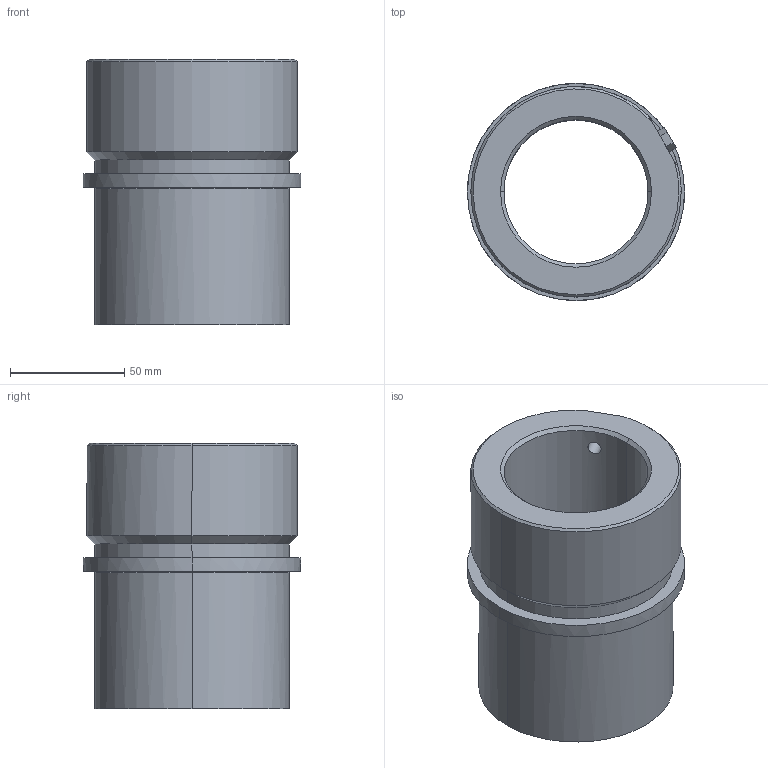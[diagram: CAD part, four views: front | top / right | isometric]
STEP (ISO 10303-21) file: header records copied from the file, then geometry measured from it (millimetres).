
FILE_DESCRIPTION(('CATIA V5 STEP Exchange'),'2;1');
FILE_NAME('C:\Users\Utente\Desktop\IO LAVORO\3D X SITO CF\X SITO\741\741-63.stp','2021-01-20T17:53:27+00:00',('none'),('none'),'CATIA Version 5 Release 20 GA (IN-10)','CATIA V5 STEP AP203','none');
FILE_SCHEMA(('CONFIG_CONTROL_DESIGN'));
Length unit declared in the file: millimetre
Products named in the file (1): 741-63
Assembly tree (1 placements, depth 2):
  741-63
    #58
Bounding box: 95 x 95 x 116 mm (x, y, z)
Volume: 344876.8 mm3; surface area: 64582.2 mm2
Topology: 1 solids, 1 shells, 42 faces, 93 edges, 58 vertices
Faces by surface type: plane 15, cylinder 14, cone 9, torus 4
Entity records: 1340 total; most frequent: CARTESIAN_POINT 372, ORIENTED_EDGE 186, DIRECTION 168, EDGE_CURVE 93, AXIS2_PLACEMENT_3D 81, VERTEX_POINT 58, EDGE_LOOP 49, VECTOR 44
